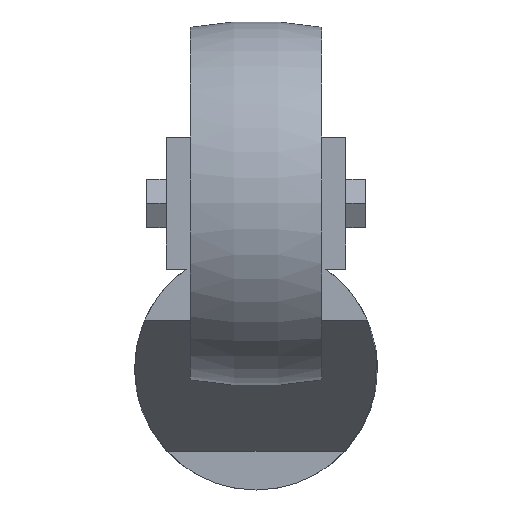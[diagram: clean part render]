
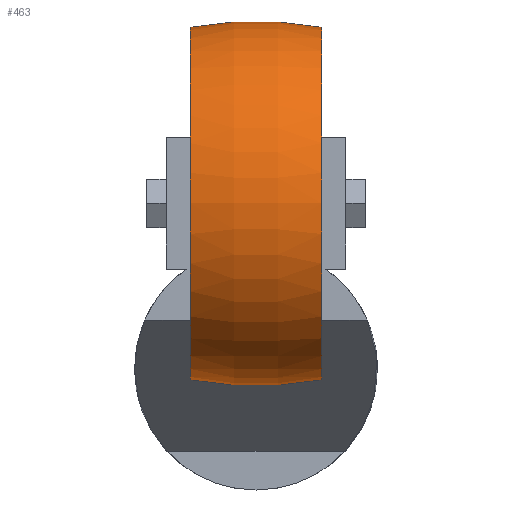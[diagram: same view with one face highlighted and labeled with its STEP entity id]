
A CAD part, front view. The second image highlights one B-rep face of the part: STEP entity #463.
In plain terms, the highlighted toroidal (fillet/blend) face has major radius 37.5 mm and minor radius 75 mm.
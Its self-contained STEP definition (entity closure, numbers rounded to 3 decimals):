
#14 = CARTESIAN_POINT ( 'NONE',  ( -13.5, -60.5, 34. ) ) ;
#31 = DIRECTION ( 'NONE',  ( -1., 0., 0. ) ) ;
#61 = CARTESIAN_POINT ( 'NONE',  ( -13.5, -60.5, -2.275 ) ) ;
#71 = AXIS2_PLACEMENT_3D ( 'NONE', #636, #952, #494 ) ;
#123 = DIRECTION ( 'NONE',  ( 0., 0., -1. ) ) ;
#158 = EDGE_CURVE ( 'NONE', #968, #813, #657, .T. ) ;
#195 = ORIENTED_EDGE ( 'NONE', *, *, #812, .F. ) ;
#268 = CIRCLE ( 'NONE', #71, 36.275 ) ;
#271 = CARTESIAN_POINT ( 'NONE',  ( 13.5, -60.5, -2.275 ) ) ;
#296 = VERTEX_POINT ( 'NONE', #61 ) ;
#307 = DIRECTION ( 'NONE',  ( 0., -1., 0. ) ) ;
#314 = AXIS2_PLACEMENT_3D ( 'NONE', #988, #1159, #1176 ) ;
#397 = CARTESIAN_POINT ( 'NONE',  ( -13.5, -60.5, 70.275 ) ) ;
#450 = TOROIDAL_SURFACE ( 'NONE', #314, -37.5, 75. ) ;
#463 = ADVANCED_FACE ( 'NONE', ( #717 ), #450, .T. ) ;
#494 = DIRECTION ( 'NONE',  ( 0., 0., 1. ) ) ;
#553 = EDGE_CURVE ( 'NONE', #706, #296, #985, .T. ) ;
#587 = DIRECTION ( 'NONE',  ( 0., 0., 1. ) ) ;
#592 = CIRCLE ( 'NONE', #750, 36.275 ) ;
#594 = CARTESIAN_POINT ( 'NONE',  ( 0., -60.5, -3.5 ) ) ;
#636 = CARTESIAN_POINT ( 'NONE',  ( 13.5, -60.5, 34. ) ) ;
#657 = CIRCLE ( 'NONE', #1148, 75. ) ;
#690 = ORIENTED_EDGE ( 'NONE', *, *, #553, .F. ) ;
#697 = CARTESIAN_POINT ( 'NONE',  ( 13.5, -60.5, 70.275 ) ) ;
#705 = DIRECTION ( 'NONE',  ( 0., 1., 0. ) ) ;
#706 = VERTEX_POINT ( 'NONE', #271 ) ;
#707 = EDGE_CURVE ( 'NONE', #706, #968, #268, .T. ) ;
#717 = FACE_OUTER_BOUND ( 'NONE', #946, .T. ) ;
#721 = CARTESIAN_POINT ( 'NONE',  ( 0., -60.5, 71.5 ) ) ;
#750 = AXIS2_PLACEMENT_3D ( 'NONE', #14, #31, #587 ) ;
#812 = EDGE_CURVE ( 'NONE', #296, #813, #592, .T. ) ;
#813 = VERTEX_POINT ( 'NONE', #397 ) ;
#946 = EDGE_LOOP ( 'NONE', ( #690, #1090, #951, #195 ) ) ;
#951 = ORIENTED_EDGE ( 'NONE', *, *, #158, .T. ) ;
#952 = DIRECTION ( 'NONE',  ( -1., 0., 0. ) ) ;
#968 = VERTEX_POINT ( 'NONE', #697 ) ;
#985 = CIRCLE ( 'NONE', #1141, 75. ) ;
#988 = CARTESIAN_POINT ( 'NONE',  ( 0., -60.5, 34. ) ) ;
#1061 = DIRECTION ( 'NONE',  ( 0., 0., 1. ) ) ;
#1090 = ORIENTED_EDGE ( 'NONE', *, *, #707, .T. ) ;
#1141 = AXIS2_PLACEMENT_3D ( 'NONE', #721, #705, #1061 ) ;
#1148 = AXIS2_PLACEMENT_3D ( 'NONE', #594, #307, #123 ) ;
#1159 = DIRECTION ( 'NONE',  ( -1., 0., 0. ) ) ;
#1176 = DIRECTION ( 'NONE',  ( 0., 0., 1. ) ) ;
